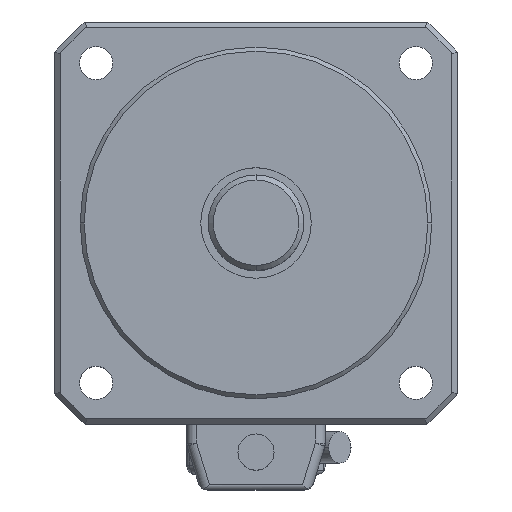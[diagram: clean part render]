
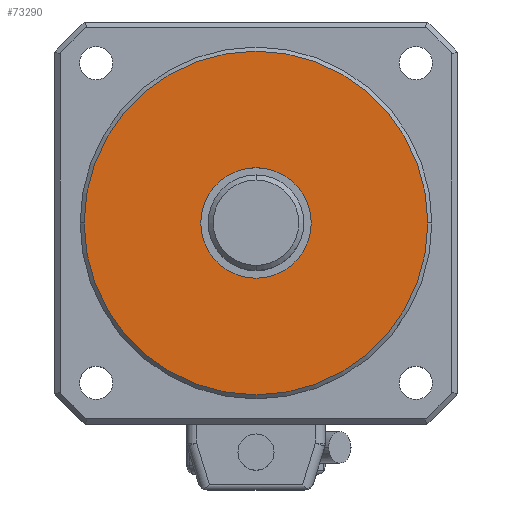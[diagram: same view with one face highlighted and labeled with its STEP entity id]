
A CAD part, top view. The second image highlights one B-rep face of the part: STEP entity #73290.
In plain terms, the highlighted planar face has unit normal (0, 0, 1) as drawn and (0, 0, -1) by its records, which use the part's own axes.
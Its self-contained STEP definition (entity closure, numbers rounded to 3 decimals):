
#72940=CARTESIAN_POINT('',(-37.75,0.,8.1));
#72950=DIRECTION('',(0.,0.,-1.));
#72960=DIRECTION('',(-1.,0.,0.));
#72970=AXIS2_PLACEMENT_3D('',#72940,#72950,#72960);
#72980=PLANE('',#72970);
#72990=CARTESIAN_POINT('',(0.,0.,8.1));
#73000=DIRECTION('',(0.,0.,-1.));
#73010=DIRECTION('',(-1.,0.,0.));
#73020=AXIS2_PLACEMENT_3D('',#72990,#73000,#73010);
#73030=CIRCLE('',#73020,11.);
#73040=CARTESIAN_POINT('',(-11.,0.,8.1));
#73050=VERTEX_POINT('',#73040);
#73060=CARTESIAN_POINT('',(11.,0.,8.1));
#73070=VERTEX_POINT('',#73060);
#73080=EDGE_CURVE('',#73050,#73070,#73030,.T.);
#73090=ORIENTED_EDGE('',*,*,#73080,.F.);
#73100=EDGE_CURVE('',#73070,#73050,#73030,.T.);
#73110=ORIENTED_EDGE('',*,*,#73100,.F.);
#73120=EDGE_LOOP('',(#73110,#73090));
#73130=FACE_BOUND('',#73120,.T.);
#73140=CARTESIAN_POINT('',(0.,0.,8.1));
#73150=DIRECTION('',(0.,0.,-1.));
#73160=DIRECTION('',(-1.,0.,0.));
#73170=AXIS2_PLACEMENT_3D('',#73140,#73150,#73160);
#73180=CIRCLE('',#73170,34.2);
#73190=CARTESIAN_POINT('',(-34.2,0.,8.1))
;
#73200=VERTEX_POINT('',#73190);
#73210=CARTESIAN_POINT('',(34.2,0.,8.1));
#73220=VERTEX_POINT('',#73210);
#73230=EDGE_CURVE('',#73200,#73220,#73180,.T.);
#73240=ORIENTED_EDGE('',*,*,#73230,.T.);
#73250=EDGE_CURVE('',#73220,#73200,#73180,.T.);
#73260=ORIENTED_EDGE('',*,*,#73250,.T.);
#73270=EDGE_LOOP('',(#73260,#73240));
#73280=FACE_OUTER_BOUND('',#73270,.T.);
#73290=ADVANCED_FACE('',(#73130,#73280),#72980,.T.);
